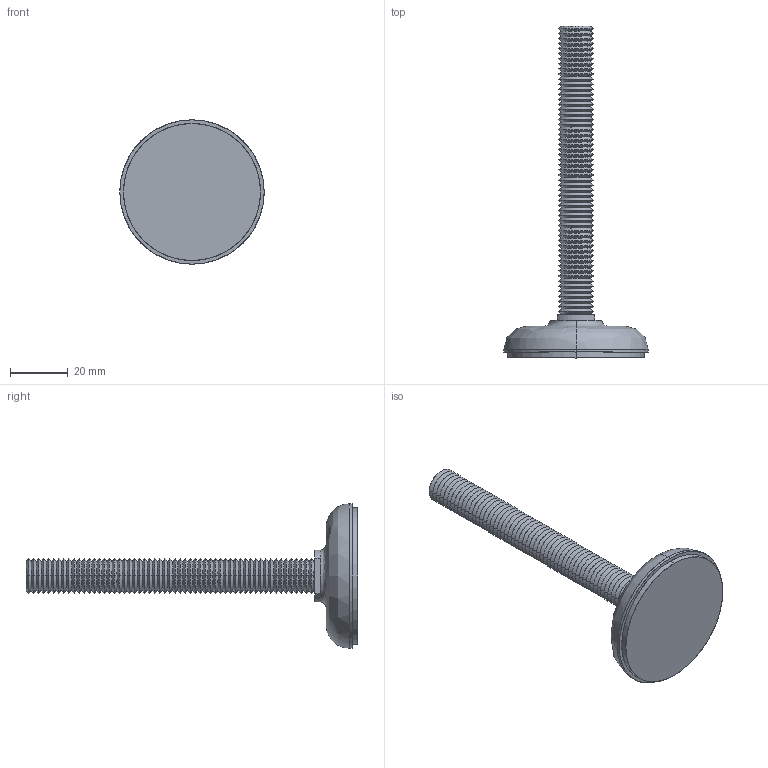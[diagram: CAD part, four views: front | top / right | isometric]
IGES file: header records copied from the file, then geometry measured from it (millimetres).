
Start section: SolidWorks IGES file using analytic representation for surfaces
Global section: file name: C:\Documents and Settings\IANO\Desktop\Temp File\Process pending\EXISTING\34780_v2\34780_v2_20170626_IGES\Default.igs; native system: SolidWorks 2009; preprocessor: SolidWorks 2009; author: IANO; date: 170626.122107; units: millimetre
Bounding box: 50 x 115 x 50 mm (x, y, z)
Surface area: 20691.5 mm2 (no closed solid volume)
Topology: 0 solids, 0 shells, 292 faces, 2082 edges, 2082 vertices
Faces by surface type: revolution 264, bspline 28
